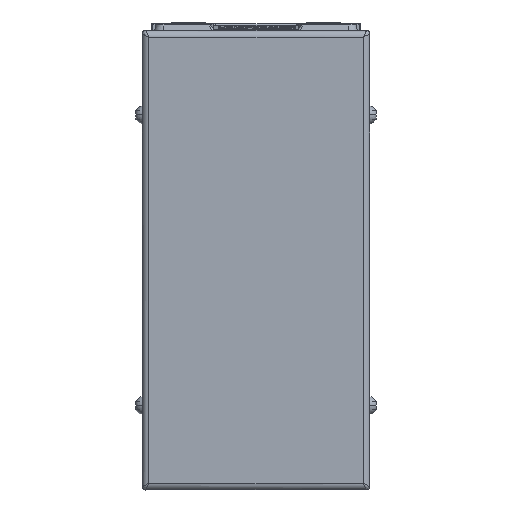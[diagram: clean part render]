
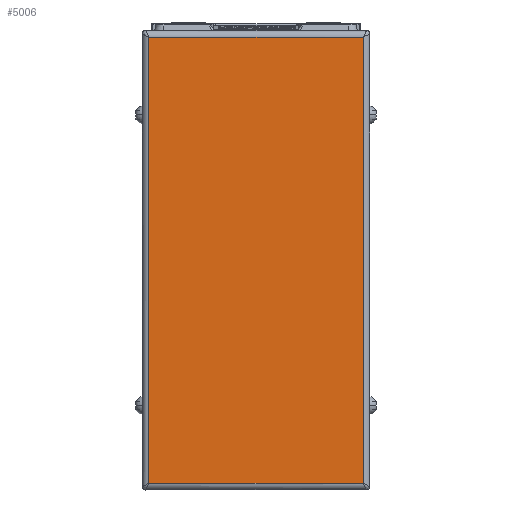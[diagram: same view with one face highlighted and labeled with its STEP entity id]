
A CAD part, left-side view. The second image highlights one B-rep face of the part: STEP entity #5006.
In plain terms, the highlighted planar face has unit normal (-1, 0, 0) as drawn and (0, 0, 1) by its records, which use the part's own axes.
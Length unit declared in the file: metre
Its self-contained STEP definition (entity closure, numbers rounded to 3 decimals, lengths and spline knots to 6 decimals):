
#5006=ADVANCED_FACE('',(#9937),#9938,.T.);
#9937=FACE_OUTER_BOUND('',#18624,.T.);
#9938=PLANE('',#18625);
#18624=EDGE_LOOP('',(#30901,#30902,#30903,#30904));
#18625=AXIS2_PLACEMENT_3D('',#30905,#30906,#30907);
#30901=ORIENTED_EDGE('',*,*,#34268,.F.);
#30902=ORIENTED_EDGE('',*,*,#35346,.F.);
#30903=ORIENTED_EDGE('',*,*,#34106,.F.);
#30904=ORIENTED_EDGE('',*,*,#32113,.F.);
#30905=CARTESIAN_POINT('',(-0.054,-0.014256,0.033889));
#30906=DIRECTION('',(0.0,0.0,1.0));
#30907=DIRECTION('',(1.0,0.0,0.0));
#32113=EDGE_CURVE('',#37593,#37596,#37597,.T.);
#34106=EDGE_CURVE('',#37596,#40778,#40779,.T.);
#34268=EDGE_CURVE('',#41014,#37593,#41016,.T.);
#35346=EDGE_CURVE('',#40778,#41014,#42433,.T.);
#37593=VERTEX_POINT('',#45325);
#37596=VERTEX_POINT('',#45337);
#37597=LINE('',#45338,#45339);
#40778=VERTEX_POINT('',#50243);
#40779=LINE('',#50244,#50245);
#41014=VERTEX_POINT('',#50576);
#41016=LINE('',#50587,#50588);
#42433=LINE('',#52822,#52823);
#45325=CARTESIAN_POINT('',(0.012,-0.045956,0.033889));
#45337=CARTESIAN_POINT('',(-0.12,-0.045956,0.033889));
#45338=CARTESIAN_POINT('',(-0.054,-0.045956,0.033889));
#45339=VECTOR('',#55221,1.0);
#50243=CARTESIAN_POINT('',(-0.12,0.017444,0.033889));
#50244=CARTESIAN_POINT('',(-0.12,-0.014256,0.033889));
#50245=VECTOR('',#57656,1.0);
#50576=CARTESIAN_POINT('',(0.012,0.017444,0.033889));
#50587=CARTESIAN_POINT('',(0.012,-0.014256,0.033889));
#50588=VECTOR('',#57828,1.0);
#52822=CARTESIAN_POINT('',(-0.054,0.017444,0.033889));
#52823=VECTOR('',#59015,1.0);
#55221=DIRECTION('',(-1.0,0.0,0.0));
#57656=DIRECTION('',(0.0,1.0,0.0));
#57828=DIRECTION('',(0.0,-1.0,0.0));
#59015=DIRECTION('',(1.0,0.0,0.0));
